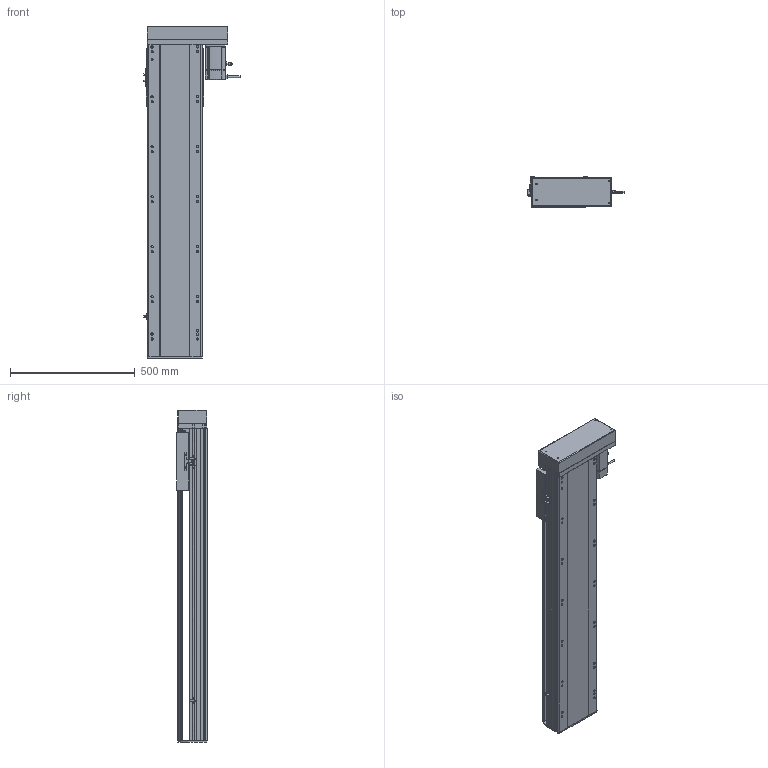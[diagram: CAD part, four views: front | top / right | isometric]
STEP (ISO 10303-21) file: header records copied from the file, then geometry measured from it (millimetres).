
FILE_DESCRIPTION (( 'STEP AP214' ), '1' );
FILE_NAME ('RTH22-XX-950-L-M75-C4.STEP', '2025-10-24T11:00:03', ( 'Microsoft' ), ( 'Microsoft' ), 'SwSTEP 2.0', 'SolidWorks 2018', '' );
FILE_SCHEMA (( 'AUTOMOTIVE_DESIGN' ));
Length unit declared in the file: millimetre
Products named in the file (10): RTH22-XX-950-L-M75-C4; N_RTH22-L-008-P75萇儂啣^RTH22-XX-XX-L-M75-C4; N_750W萇儂^RTH22-XX-XX-L-M75-C4; N_RTH22-L-011菁釱^RTH22-XX-XX-L-M75-C4; N_OMRON EE-SX672 传感器^RTH22-XX-XX-L-M75-C4; N_RTH22-GY-013外置感应片^RTH22-XX-XX-L-M75-C4; N_RTH22-L-004-SFS25賑釱^RTH22-XX-XX-L-M75-C4; N_RTH22-GY-001耜裔^RTH22-XX-XX-L-M75-C4; N_RTH22-L-018裔赽^RTH22-XX-XX-L-M75-C4; N_RTH22-L-007奻裔^RTH22-XX-XX-L-M75-C4
Assembly tree (11 placements, depth 2):
  RTH22-XX-950-L-M75-C4
    N_RTH22-L-011菁釱^RTH22-XX-XX-L-M75-C4
    N_RTH22-GY-001耜裔^RTH22-XX-XX-L-M75-C4
    N_750W萇儂^RTH22-XX-XX-L-M75-C4
    N_RTH22-L-008-P75萇儂啣^RTH22-XX-XX-L-M75-C4
    N_RTH22-L-007奻裔^RTH22-XX-XX-L-M75-C4
    N_RTH22-L-018裔赽^RTH22-XX-XX-L-M75-C4
    N_OMRON EE-SX672 传感器^RTH22-XX-XX-L-M75-C4  x3
    N_RTH22-GY-013外置感应片^RTH22-XX-XX-L-M75-C4
    N_RTH22-L-004-SFS25賑釱^RTH22-XX-XX-L-M75-C4
Bounding box: 384.7 x 122 x 1329.7 mm (x, y, z)
Volume: 18316082.3 mm3; surface area: 2056334.9 mm2
Topology: 11 solids, 11 shells, 1606 faces, 4379 edges, 2821 vertices
Faces by surface type: plane 795, cylinder 470, bspline 279, cone 62
Entity records: 40335 total; most frequent: CARTESIAN_POINT 12262, ORIENTED_EDGE 5726, DIRECTION 5413, EDGE_CURVE 2863, VERTEX_POINT 1857, AXIS2_PLACEMENT_3D 1824, LINE 1765, VECTOR 1765
